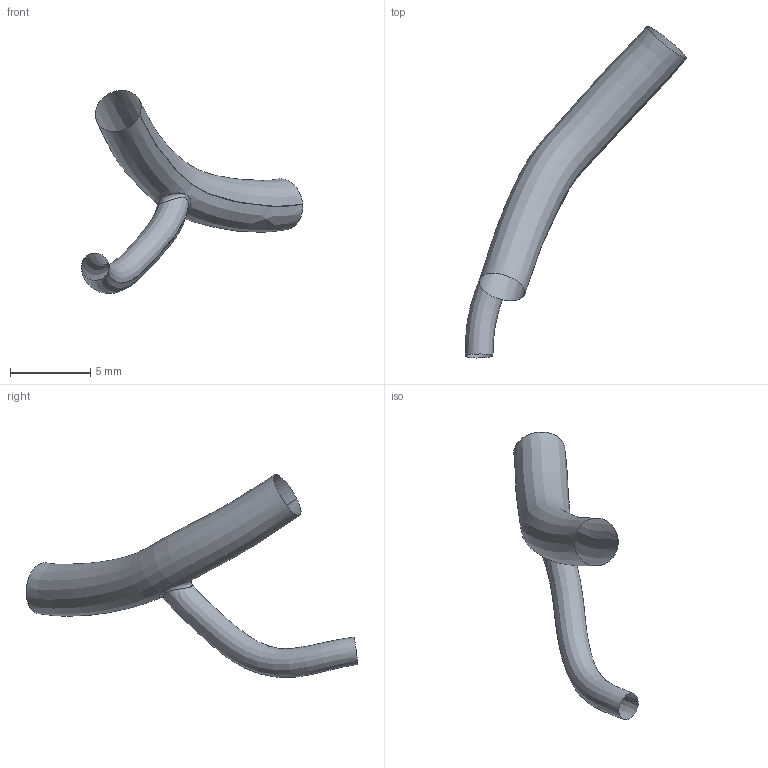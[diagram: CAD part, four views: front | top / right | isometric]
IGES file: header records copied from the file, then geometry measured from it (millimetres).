
Global section: file name: C:\Documents and Settings\Administrator\Desktop\FDA-Pig\Domestic LCA\Pig_000006\om.es.igs; native system: Rhinoceros ( May 19 2006 ); preprocessor: Trout Lake IGES 012 May 19 2006; date: 111205.183633; units: centimetre
Bounding box: 13.79 x 20.68 x 12.65 mm (x, y, z)
Surface area: 276.2 mm2 (no closed solid volume)
Topology: 0 solids, 0 shells, 3 faces, 41 edges, 38 vertices
Faces by surface type: bspline 3
